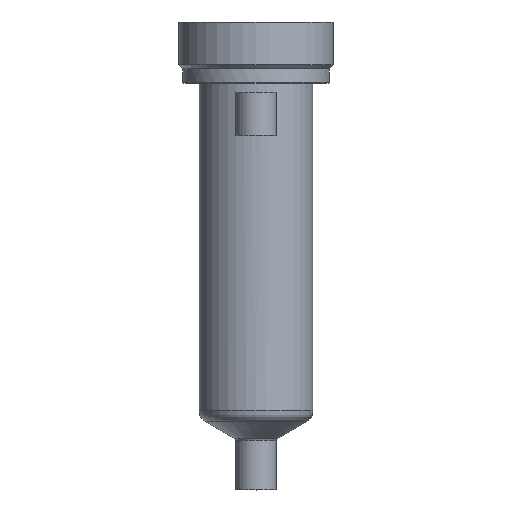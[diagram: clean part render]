
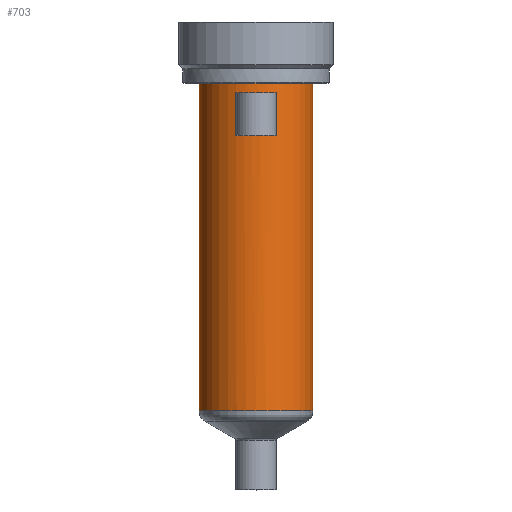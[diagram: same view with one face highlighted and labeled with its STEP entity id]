
A CAD part, top view. The second image highlights one B-rep face of the part: STEP entity #703.
In plain terms, the highlighted cylindrical face has radius 14 mm (diameter 28 mm), a partial arc.
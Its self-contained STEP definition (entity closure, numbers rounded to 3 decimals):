
#195=DIRECTION('',(0.,-1.,0.));
#196=VECTOR('',#195,80.583);
#197=CARTESIAN_POINT('',(14.,0.,0.));
#198=LINE('',#197,#196);
#199=CARTESIAN_POINT('',(0.,-80.583,0.));
#200=DIRECTION('',(0.,1.,0.));
#201=DIRECTION('',(-1.,0.,0.));
#202=AXIS2_PLACEMENT_3D('',#199,#200,#201);
#204=DIRECTION('',(0.,1.,0.));
#205=VECTOR('',#204,80.583);
#206=CARTESIAN_POINT('',(-14.,-80.583,0.));
#207=LINE('',#206,#205);
#208=CARTESIAN_POINT('',(0.,0.,0.));
#209=DIRECTION('',(0.,1.,0.));
#210=DIRECTION('',(-1.,0.,0.));
#211=AXIS2_PLACEMENT_3D('',#208,#209,#210);
#289=DIRECTION('',(0.,-1.,0.));
#290=VECTOR('',#289,10.5);
#291=CARTESIAN_POINT('',(-5.,-2.5,13.077));
#292=LINE('',#291,#290);
#297=CARTESIAN_POINT('',(0.,-13.,0.));
#298=DIRECTION('',(0.,1.,0.));
#299=DIRECTION('',(-0.357,0.,0.934));
#300=AXIS2_PLACEMENT_3D('',#297,#298,#299);
#332=CARTESIAN_POINT('',(0.,-2.5,0.));
#333=DIRECTION('',(0.,-1.,0.));
#334=DIRECTION('',(0.357,0.,0.934));
#335=AXIS2_PLACEMENT_3D('',#332,#333,#334);
#337=DIRECTION('',(0.,-1.,0.));
#338=VECTOR('',#337,10.5);
#339=CARTESIAN_POINT('',(5.,-2.5,13.077));
#340=LINE('',#339,#338);
#398=CARTESIAN_POINT('',(-14.,0.,0.));
#399=CARTESIAN_POINT('',(14.,0.,0.));
#400=VERTEX_POINT('',#398);
#401=VERTEX_POINT('',#399);
#410=CARTESIAN_POINT('',(5.,-2.5,13.077));
#411=VERTEX_POINT('',#410);
#412=CARTESIAN_POINT('',(-5.,-2.5,13.077));
#413=VERTEX_POINT('',#412);
#450=CARTESIAN_POINT('',(14.,-80.583,0.));
#451=VERTEX_POINT('',#450);
#460=CARTESIAN_POINT('',(-14.,-80.583,0.));
#461=VERTEX_POINT('',#460);
#462=CARTESIAN_POINT('',(-5.,-13.,13.077));
#463=CARTESIAN_POINT('',(5.,-13.,13.077));
#464=VERTEX_POINT('',#462);
#465=VERTEX_POINT('',#463);
#681=CARTESIAN_POINT('',(0.,16.4,0.));
#682=DIRECTION('',(0.,-1.,0.));
#683=DIRECTION('',(-1.,0.,0.));
#684=AXIS2_PLACEMENT_3D('',#681,#682,#683);
#685=CYLINDRICAL_SURFACE('',#684,14.);
#686=ORIENTED_EDGE('',*,*,#675,.T.);
#688=ORIENTED_EDGE('',*,*,#687,.F.);
#689=ORIENTED_EDGE('',*,*,#671,.T.);
#690=ORIENTED_EDGE('',*,*,#661,.T.);
#691=EDGE_LOOP('',(#686,#688,#689,#690));
#692=FACE_OUTER_BOUND('',#691,.F.);
#694=ORIENTED_EDGE('',*,*,#693,.T.);
#696=ORIENTED_EDGE('',*,*,#695,.T.);
#698=ORIENTED_EDGE('',*,*,#697,.F.);
#700=ORIENTED_EDGE('',*,*,#699,.T.);
#701=EDGE_LOOP('',(#694,#696,#698,#700));
#702=FACE_BOUND('',#701,.F.);
#703=ADVANCED_FACE('',(#692,#702),#685,.T.);
#203=CIRCLE('',#202,14.);
#212=CIRCLE('',#211,14.);
#301=CIRCLE('',#300,14.);
#336=CIRCLE('',#335,14.);
#661=EDGE_CURVE('',#400,#401,#212,.T.);
#671=EDGE_CURVE('',#461,#400,#207,.T.);
#675=EDGE_CURVE('',#401,#451,#198,.T.);
#687=EDGE_CURVE('',#461,#451,#203,.T.);
#693=EDGE_CURVE('',#413,#464,#292,.T.);
#695=EDGE_CURVE('',#464,#465,#301,.T.);
#697=EDGE_CURVE('',#411,#465,#340,.T.);
#699=EDGE_CURVE('',#411,#413,#336,.T.);
